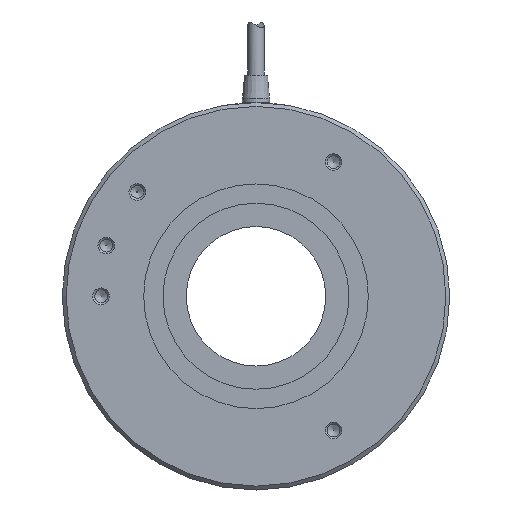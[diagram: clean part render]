
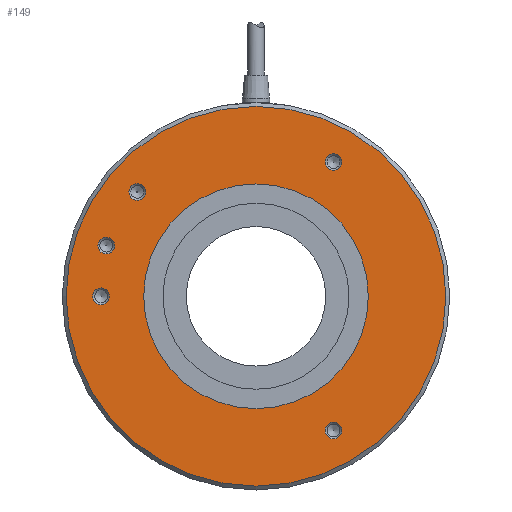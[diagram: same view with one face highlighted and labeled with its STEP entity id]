
A CAD part, left-side view. The second image highlights one B-rep face of the part: STEP entity #149.
In plain terms, the highlighted planar face has unit normal (-1, 0, 0).
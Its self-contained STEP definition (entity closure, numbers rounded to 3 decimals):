
#149=ADVANCED_FACE('',(#329,#330,#331,#332,#333,#334,#335),#336,.F.);
#329=FACE_OUTER_BOUND('',#581,.T.);
#330=FACE_BOUND('',#582,.T.);
#331=FACE_BOUND('',#583,.T.);
#332=FACE_BOUND('',#584,.T.);
#333=FACE_BOUND('',#585,.T.);
#334=FACE_BOUND('',#586,.T.);
#335=FACE_BOUND('',#587,.T.);
#336=PLANE('',#588);
#581=EDGE_LOOP('',(#859));
#582=EDGE_LOOP('',(#860));
#583=EDGE_LOOP('',(#861));
#584=EDGE_LOOP('',(#862));
#585=EDGE_LOOP('',(#863));
#586=EDGE_LOOP('',(#864));
#587=EDGE_LOOP('',(#865));
#588=AXIS2_PLACEMENT_3D('',#866,#867,#868);
#859=ORIENTED_EDGE('',*,*,#1200,.T.);
#860=ORIENTED_EDGE('',*,*,#1158,.T.);
#861=ORIENTED_EDGE('',*,*,#1166,.T.);
#862=ORIENTED_EDGE('',*,*,#1174,.T.);
#863=ORIENTED_EDGE('',*,*,#1182,.T.);
#864=ORIENTED_EDGE('',*,*,#1190,.T.);
#865=ORIENTED_EDGE('',*,*,#1197,.F.);
#866=CARTESIAN_POINT('',(0.,-34.208,-19.75));
#867=DIRECTION('',(1.0,0.,0.));
#868=DIRECTION('',(0.,-0.5,0.866));
#1158=EDGE_CURVE('',#1297,#1297,#1298,.T.);
#1166=EDGE_CURVE('',#1308,#1308,#1309,.T.);
#1174=EDGE_CURVE('',#1319,#1319,#1320,.T.);
#1182=EDGE_CURVE('',#1330,#1330,#1331,.T.);
#1190=EDGE_CURVE('',#1343,#1343,#1344,.T.);
#1197=EDGE_CURVE('',#1354,#1354,#1355,.T.);
#1200=EDGE_CURVE('',#1359,#1359,#1360,.F.);
#1297=VERTEX_POINT('',#1493);
#1298=CIRCLE('',#1494,2.15);
#1308=VERTEX_POINT('',#1504);
#1309=CIRCLE('',#1505,2.15);
#1319=VERTEX_POINT('',#1515);
#1320=CIRCLE('',#1516,2.15);
#1330=VERTEX_POINT('',#1526);
#1331=CIRCLE('',#1527,2.15);
#1343=VERTEX_POINT('',#1539);
#1344=CIRCLE('',#1540,2.15);
#1354=VERTEX_POINT('',#1550);
#1355=CIRCLE('',#1551,29.0);
#1359=VERTEX_POINT('',#1555);
#1360=CIRCLE('',#1556,49.0);
#1493=CARTESIAN_POINT('',(0.,-18.138,-33.566));
#1494=AXIS2_PLACEMENT_3D('',#1793,#1794,#1795);
#1504=CARTESIAN_POINT('',(0.,-18.138,35.716));
#1505=AXIS2_PLACEMENT_3D('',#1805,#1806,#1807);
#1515=CARTESIAN_POINT('',(0.,41.862,1.075));
#1516=AXIS2_PLACEMENT_3D('',#1817,#1818,#1819);
#1526=CARTESIAN_POINT('',(0.,32.503,28.003));
#1527=AXIS2_PLACEMENT_3D('',#1829,#1830,#1831);
#1539=CARTESIAN_POINT('',(0.,40.503,14.147));
#1540=AXIS2_PLACEMENT_3D('',#1844,#1845,#1846);
#1550=CARTESIAN_POINT('',(0.,14.5,-25.115));
#1551=AXIS2_PLACEMENT_3D('',#1856,#1857,#1858);
#1555=CARTESIAN_POINT('',(0.,-24.5,42.435));
#1556=AXIS2_PLACEMENT_3D('',#1862,#1863,#1864);
#1793=CARTESIAN_POINT('',(0.,-20.0,-34.641));
#1794=DIRECTION('',(1.0,0.,0.));
#1795=DIRECTION('',(0.,0.866,0.5));
#1805=CARTESIAN_POINT('',(0.,-20.0,34.641));
#1806=DIRECTION('',(1.0,0.,0.));
#1807=DIRECTION('',(0.,0.866,0.5));
#1817=CARTESIAN_POINT('',(0.,40.0,0.));
#1818=DIRECTION('',(1.0,0.,0.));
#1819=DIRECTION('',(0.,0.866,0.5));
#1829=CARTESIAN_POINT('',(0.,30.641,26.928));
#1830=DIRECTION('',(1.0,0.,0.));
#1831=DIRECTION('',(0.,0.866,0.5));
#1844=CARTESIAN_POINT('',(0.,38.641,13.072));
#1845=DIRECTION('',(1.0,0.,0.));
#1846=DIRECTION('',(0.,0.866,0.5));
#1856=CARTESIAN_POINT('',(0.0,0.0,0.0));
#1857=DIRECTION('',(-1.0,0.,0.));
#1858=DIRECTION('',(0.,0.5,-0.866));
#1862=CARTESIAN_POINT('',(0.,0.,0.));
#1863=DIRECTION('',(1.0,0.,0.));
#1864=DIRECTION('',(0.,-0.5,0.866));
